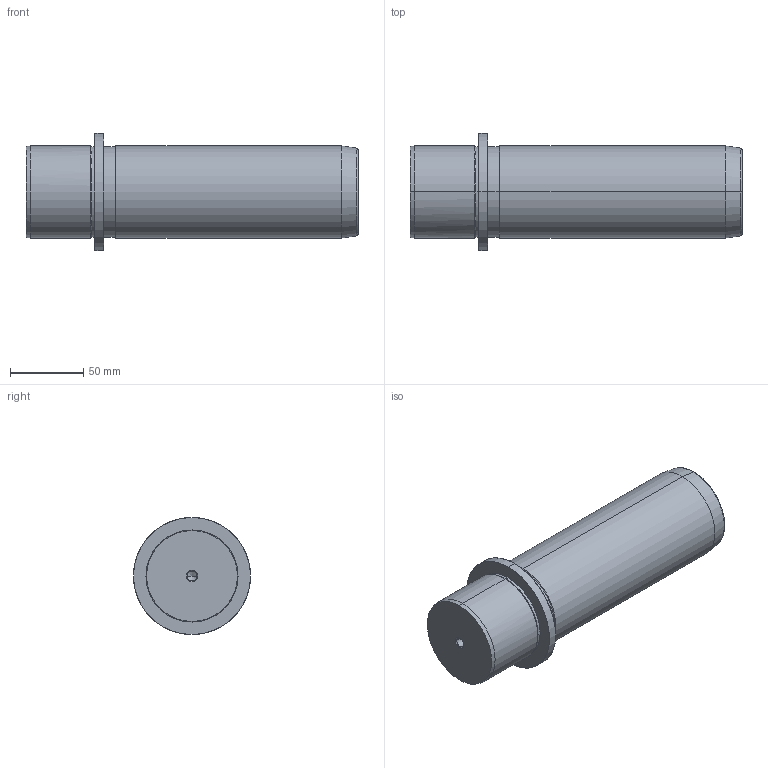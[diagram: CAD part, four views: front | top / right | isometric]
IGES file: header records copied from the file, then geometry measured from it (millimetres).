
Start section: START RECORD GO HERE.
Global section: file name: 719-63x180.igs; native system: DASSAULT SYSTEMES CATIA V5 R20 - www.3ds.com; preprocessor: CATIA Version 5 Release 20 ; author: Utente; organization: NB04-ASUS; date: 20210103.154710; units: millimetre
Bounding box: 227 x 80 x 80 mm (x, y, z)
Surface area: 56041.5 mm2 (no closed solid volume)
Topology: 0 solids, 0 shells, 36 faces, 196 edges, 192 vertices
Faces by surface type: revolution 32, plane 4
